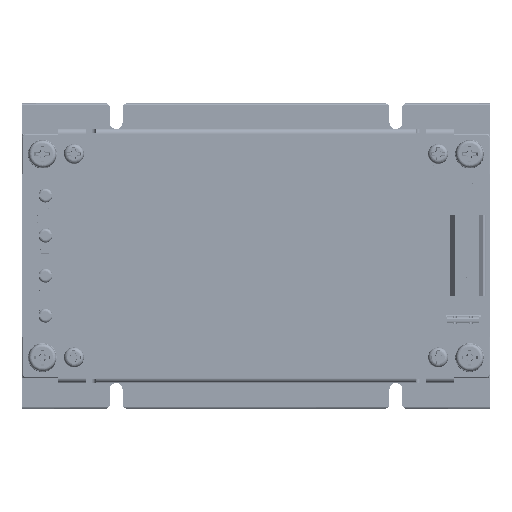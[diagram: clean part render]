
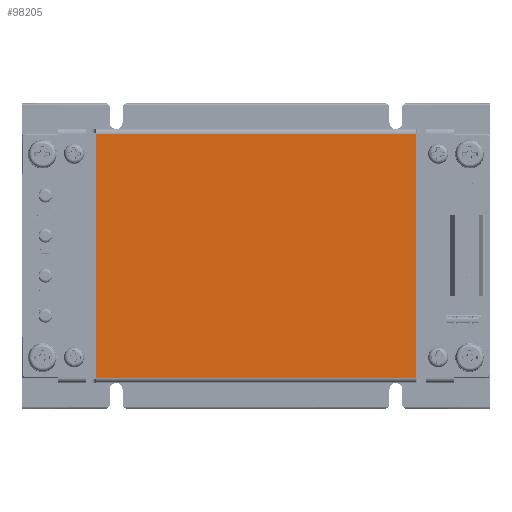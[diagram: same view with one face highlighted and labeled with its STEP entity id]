
A CAD part, top view. The second image highlights one B-rep face of the part: STEP entity #98205.
In plain terms, the highlighted planar face has unit normal (0, 0, 1).
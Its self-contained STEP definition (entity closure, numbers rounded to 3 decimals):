
#738 = VERTEX_POINT ( 'NONE', #346660 ) ;
#7155 = CARTESIAN_POINT ( 'NONE',  ( 39.992, 40.707, 16.7 ) ) ;
#16230 = ORIENTED_EDGE ( 'NONE', *, *, #218221, .T. ) ;
#27268 = CARTESIAN_POINT ( 'NONE',  ( -40.008, -20.253, 16.7 ) ) ;
#67953 = EDGE_CURVE ( 'NONE', #155834, #738, #482404, .T. ) ;
#73802 = ORIENTED_EDGE ( 'NONE', *, *, #466145, .F. ) ;
#98205 = ADVANCED_FACE ( 'NONE', ( #376928 ), #137714, .T. ) ;
#114375 = DIRECTION ( 'NONE',  ( 0., 1., 0. ) ) ;
#125416 = LINE ( 'NONE', #7155, #335479 ) ;
#137714 = PLANE ( 'NONE',  #151842 ) ;
#151842 = AXIS2_PLACEMENT_3D ( 'NONE', #339259, #422512, #220964 ) ;
#155834 = VERTEX_POINT ( 'NONE', #327988 ) ;
#170976 = DIRECTION ( 'NONE',  ( -1., 0., 0. ) ) ;
#218221 = EDGE_CURVE ( 'NONE', #738, #485586, #125416, .T. ) ;
#220964 = DIRECTION ( 'NONE',  ( 0., -1., 0. ) ) ;
#226894 = EDGE_CURVE ( 'NONE', #526363, #155834, #315623, .T. ) ;
#228959 = EDGE_LOOP ( 'NONE', ( #327187, #16230, #73802, #342818 ) ) ;
#280837 = CARTESIAN_POINT ( 'NONE',  ( 39.992, -20.453, 16.7 ) ) ;
#311939 = VECTOR ( 'NONE', #114375, 1000. ) ;
#315623 = LINE ( 'NONE', #468882, #500209 ) ;
#327187 = ORIENTED_EDGE ( 'NONE', *, *, #67953, .T. ) ;
#327988 = CARTESIAN_POINT ( 'NONE',  ( 39.992, -20.253, 16.7 ) ) ;
#335479 = VECTOR ( 'NONE', #170976, 1000. ) ;
#339259 = CARTESIAN_POINT ( 'NONE',  ( -40.008, -20.453, 16.7 ) ) ;
#342818 = ORIENTED_EDGE ( 'NONE', *, *, #226894, .T. ) ;
#346660 = CARTESIAN_POINT ( 'NONE',  ( 39.992, 40.707, 16.7 ) ) ;
#364476 = CARTESIAN_POINT ( 'NONE',  ( -40.008, 40.707, 16.7 ) ) ;
#376928 = FACE_OUTER_BOUND ( 'NONE', #228959, .T. ) ;
#407770 = VECTOR ( 'NONE', #448050, 1000. ) ;
#422512 = DIRECTION ( 'NONE',  ( 0., 0., 1. ) ) ;
#445406 = CARTESIAN_POINT ( 'NONE',  ( -40.008, -20.453, 16.7 ) ) ;
#448050 = DIRECTION ( 'NONE',  ( 0., 1., 0. ) ) ;
#466145 = EDGE_CURVE ( 'NONE', #526363, #485586, #516077, .T. ) ;
#468882 = CARTESIAN_POINT ( 'NONE',  ( -40.008, -20.253, 16.7 ) ) ;
#482404 = LINE ( 'NONE', #280837, #311939 ) ;
#485586 = VERTEX_POINT ( 'NONE', #364476 ) ;
#500209 = VECTOR ( 'NONE', #511831, 1000. ) ;
#511831 = DIRECTION ( 'NONE',  ( 1., 0., 0. ) ) ;
#516077 = LINE ( 'NONE', #445406, #407770 ) ;
#526363 = VERTEX_POINT ( 'NONE', #27268 ) ;
